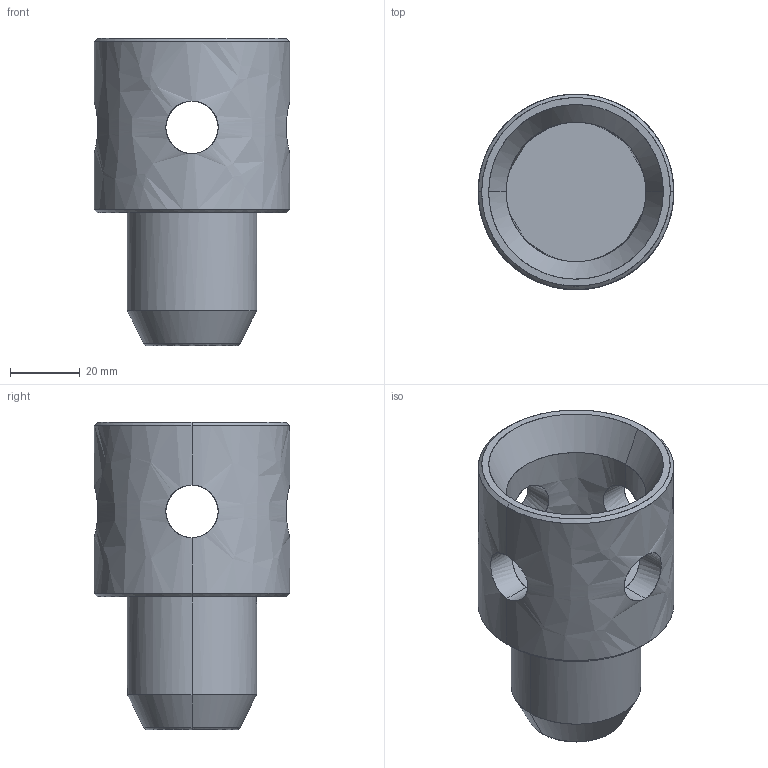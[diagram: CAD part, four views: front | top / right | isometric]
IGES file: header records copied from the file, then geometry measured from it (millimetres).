
Global section: file name: E:\UnigraphicsGraphicData\MISUMI_PRESS-PARTS\IGES\3d_kpb38_07045_r00.igs; native system: NX V5.0; preprocessor: UGS NX IGES V5.0; author: MISUMI; date: 20110105.161141; units: millimetre
Bounding box: 56 x 56 x 88 mm (x, y, z)
Surface area: 22099.1 mm2 (no closed solid volume)
Topology: 0 solids, 0 shells, 32 faces, 318 edges, 316 vertices
Faces by surface type: bspline 32
